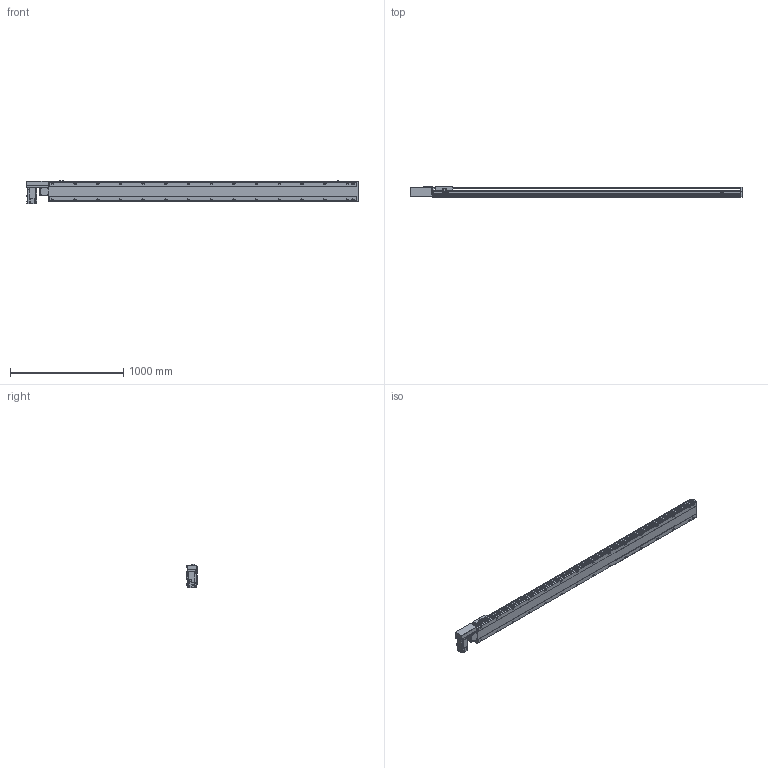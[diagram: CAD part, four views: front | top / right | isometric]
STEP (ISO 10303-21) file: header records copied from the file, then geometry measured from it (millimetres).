
FILE_DESCRIPTION( ( 'STEP AP214' ), '1' );
FILE_NAME( 'x:/temp/worker_4/temp/exporttempdir_2248_294_DFGJH/format_0/PBS170-P40-S2450-R-T75-C1-N(0).stp', '2022-06-07T07:32:26', ( 'License CC BY-ND 4.0' ), ( 'CADENAS' ), ' ', 'PARTsolutions', ' ' );
FILE_SCHEMA( ( 'AUTOMOTIVE_DESIGN { 1 0 10303 214 1 1 1 1 }' ) );
Length unit declared in the file: millimetre
Products named in the file (7): PBS170-P40-S2450-R-T75-C1-N(0); _PBS170-S2450()_body; _PBS170T-R_motors; _T75-p1; _PBS170_sliser; _PBS170_plant; _PBS170_sensor
Assembly tree (8 placements, depth 2):
  PBS170-P40-S2450-R-T75-C1-N(0)
    _PBS170-S2450()_body
    _PBS170T-R_motors
    _T75-p1
    _PBS170_sliser
    _PBS170_plant
    _PBS170_sensor  x3
Bounding box: 2928 x 97 x 205.3 mm (x, y, z)
Volume: 21319367.1 mm3; surface area: 2687759.7 mm2
Topology: 8 solids, 8 shells, 1194 faces, 3155 edges, 2056 vertices
Faces by surface type: plane 729, cylinder 395, cone 60, sphere 8, torus 2
Full cylindrical faces by diameter (mm): 3.242 x4, 4 x2, 4.4 x4, 4.5 x6, 4.917 x4, 6 x9, 6.647 x38, 7 x2, 7.5 x4, 8 x8, 8.5 x30, 10 x4, 10.5 x30, 11 x2, 30 x2, 40 x1, 70 x1
Entity records: 44234 total; most frequent: CARTESIAN_POINT 7397, DIRECTION 5790, ORIENTED_EDGE 5448, EDGE_CURVE 2724, AXIS2_PLACEMENT_3D 2047, VERTEX_POINT 1898, LINE 1696, VECTOR 1696
